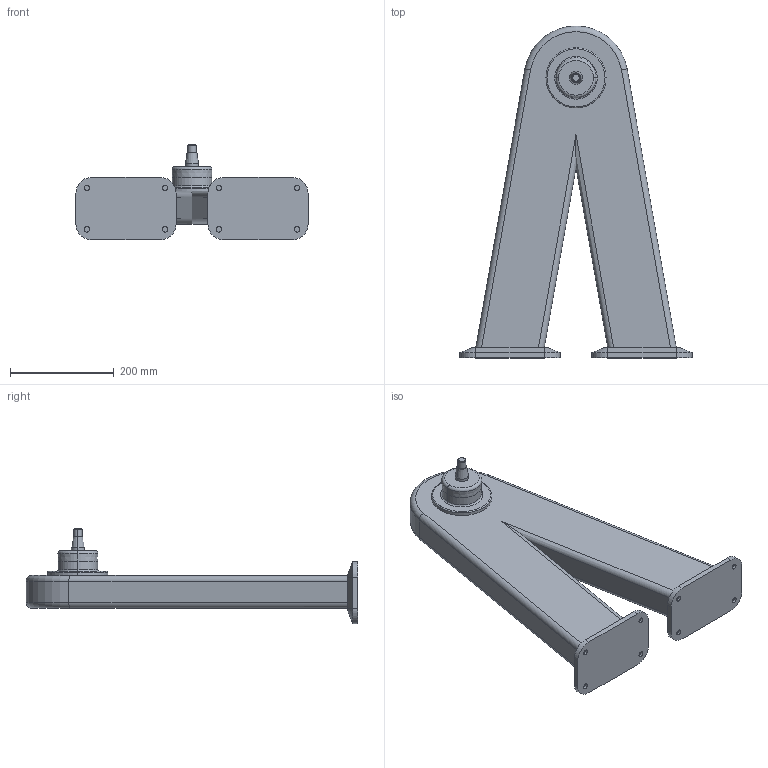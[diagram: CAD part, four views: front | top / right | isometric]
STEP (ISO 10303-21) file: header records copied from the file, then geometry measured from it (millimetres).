
FILE_DESCRIPTION (( 'STEP AP214' ), '1' );
FILE_NAME ('WP850_H540.STEP', '2014-09-08T12:59:58', ( '' ), ( '' ), 'SwSTEP 2.0', 'SolidWorks 2014', '' );
FILE_SCHEMA (( 'AUTOMOTIVE_DESIGN' ));
Length unit declared in the file: millimetre
Products named in the file (1): WP850_H540
Bounding box: 447.46 x 640 x 183.98 mm (x, y, z)
Volume: 10240002.3 mm3; surface area: 508555.6 mm2
Topology: 1 solids, 1 shells, 101 faces, 221 edges, 136 vertices
Faces by surface type: cylinder 41, plane 38, cone 14, torus 8
Entity records: 2795 total; most frequent: DIRECTION 513, CARTESIAN_POINT 489, ORIENTED_EDGE 442, EDGE_CURVE 221, AXIS2_PLACEMENT_3D 200, VERTEX_POINT 136, EDGE_LOOP 115, VECTOR 113
